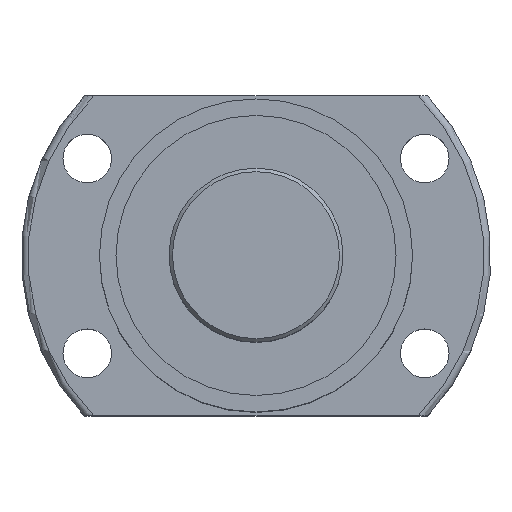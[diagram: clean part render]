
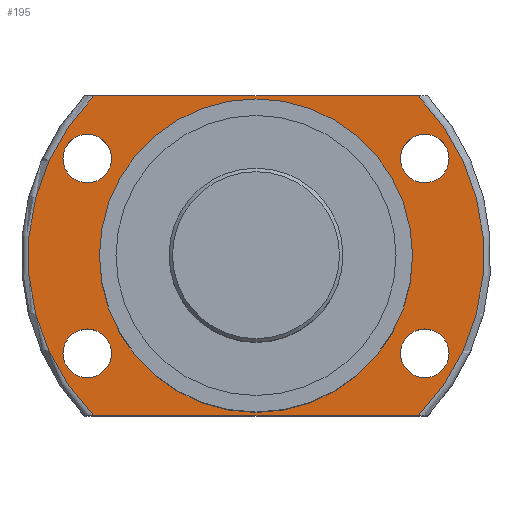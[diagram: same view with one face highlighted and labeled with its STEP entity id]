
A CAD part, top view. The second image highlights one B-rep face of the part: STEP entity #195.
In plain terms, the highlighted planar face has unit normal (0, 0, 1) as drawn and (1, 0, 0) by its records, which use the part's own axes.
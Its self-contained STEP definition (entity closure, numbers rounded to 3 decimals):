
#107=LINE('',#1185,#115);
#108=LINE('',#1190,#116);
#115=VECTOR('',#993,1.);
#116=VECTOR('',#996,1.);
#157=PLANE('',#829);
#195=ADVANCED_FACE('',(#297,#298,#299,#300,#301,#302),#157,.T.);
#297=FACE_BOUND('',#391,.T.);
#298=FACE_BOUND('',#392,.T.);
#299=FACE_BOUND('',#393,.T.);
#300=FACE_BOUND('',#394,.T.);
#301=FACE_BOUND('',#395,.T.);
#302=FACE_BOUND('',#396,.T.);
#391=EDGE_LOOP('',(#493,#494,#495,#496));
#392=EDGE_LOOP('',(#497));
#393=EDGE_LOOP('',(#498));
#394=EDGE_LOOP('',(#499));
#395=EDGE_LOOP('',(#500));
#396=EDGE_LOOP('',(#501));
#493=ORIENTED_EDGE('',*,*,#667,.T.);
#494=ORIENTED_EDGE('',*,*,#668,.T.);
#495=ORIENTED_EDGE('',*,*,#669,.F.);
#496=ORIENTED_EDGE('',*,*,#670,.T.);
#497=ORIENTED_EDGE('',*,*,#671,.T.);
#498=ORIENTED_EDGE('',*,*,#672,.T.);
#499=ORIENTED_EDGE('',*,*,#673,.T.);
#500=ORIENTED_EDGE('',*,*,#674,.T.);
#501=ORIENTED_EDGE('',*,*,#651,.F.);
#589=VERTEX_POINT('',#1138);
#605=VERTEX_POINT('',#1186);
#606=VERTEX_POINT('',#1187);
#607=VERTEX_POINT('',#1189);
#608=VERTEX_POINT('',#1191);
#609=VERTEX_POINT('',#1194);
#610=VERTEX_POINT('',#1196);
#611=VERTEX_POINT('',#1198);
#612=VERTEX_POINT('',#1200);
#651=EDGE_CURVE('',#589,#589,#721,.T.);
#667=EDGE_CURVE('',#605,#606,#107,.T.);
#668=EDGE_CURVE('',#606,#607,#737,.T.);
#669=EDGE_CURVE('',#608,#607,#108,.T.);
#670=EDGE_CURVE('',#608,#605,#738,.T.);
#671=EDGE_CURVE('',#609,#609,#739,.T.);
#672=EDGE_CURVE('',#610,#610,#740,.T.);
#673=EDGE_CURVE('',#611,#611,#741,.T.);
#674=EDGE_CURVE('',#612,#612,#742,.T.);
#721=CIRCLE('',#791,45.);
#737=CIRCLE('',#823,65.5);
#738=CIRCLE('',#824,65.5);
#739=CIRCLE('',#825,7.);
#740=CIRCLE('',#826,7.);
#741=CIRCLE('',#827,7.);
#742=CIRCLE('',#828,7.);
#791=AXIS2_PLACEMENT_3D('',#1137,#929,#930);
#823=AXIS2_PLACEMENT_3D('',#1188,#994,#995);
#824=AXIS2_PLACEMENT_3D('',#1192,#997,#998);
#825=AXIS2_PLACEMENT_3D('',#1193,#999,#1000);
#826=AXIS2_PLACEMENT_3D('',#1195,#1001,#1002);
#827=AXIS2_PLACEMENT_3D('',#1197,#1003,#1004);
#828=AXIS2_PLACEMENT_3D('',#1199,#1005,#1006);
#829=AXIS2_PLACEMENT_3D('',#1201,#1007,#1008);
#929=DIRECTION('',(1.,0.,0.));
#930=DIRECTION('',(0.,1.,0.));
#993=DIRECTION('',(0.,0.,1.));
#994=DIRECTION('',(1.,0.,0.));
#995=DIRECTION('',(0.,1.,0.));
#996=DIRECTION('',(0.,0.,1.));
#997=DIRECTION('',(1.,0.,0.));
#998=DIRECTION('',(0.,1.,0.));
#999=DIRECTION('',(-1.,0.,0.));
#1000=DIRECTION('',(0.,-1.,0.));
#1001=DIRECTION('',(-1.,0.,0.));
#1002=DIRECTION('',(0.,-1.,0.));
#1003=DIRECTION('',(-1.,0.,0.));
#1004=DIRECTION('',(0.,-1.,0.));
#1005=DIRECTION('',(-1.,0.,0.));
#1006=DIRECTION('',(0.,-1.,0.));
#1007=DIRECTION('',(1.,0.,0.));
#1008=DIRECTION('',(0.,1.,0.));
#1137=CARTESIAN_POINT('',(260.712,110.794,0.));
#1138=CARTESIAN_POINT('',(260.712,155.794,0.));
#1185=CARTESIAN_POINT('',(260.712,156.794,-87.128));
#1186=CARTESIAN_POINT('',(260.712,156.794,-46.629));
#1187=CARTESIAN_POINT('',(260.712,156.794,46.629));
#1188=CARTESIAN_POINT('',(260.712,110.794,0.));
#1189=CARTESIAN_POINT('',(260.712,64.794,46.629));
#1190=CARTESIAN_POINT('',(260.712,64.794,-87.128));
#1191=CARTESIAN_POINT('',(260.712,64.794,-46.629));
#1192=CARTESIAN_POINT('',(260.712,110.794,0.));
#1193=CARTESIAN_POINT('',(260.712,138.794,48.5));
#1194=CARTESIAN_POINT('',(260.712,131.794,48.5));
#1195=CARTESIAN_POINT('',(260.712,82.794,48.5));
#1196=CARTESIAN_POINT('',(260.712,75.794,48.5));
#1197=CARTESIAN_POINT('',(260.712,82.794,-48.5));
#1198=CARTESIAN_POINT('',(260.712,75.794,-48.5));
#1199=CARTESIAN_POINT('',(260.712,138.794,-48.5));
#1200=CARTESIAN_POINT('',(260.712,131.794,-48.5));
#1201=CARTESIAN_POINT('',(260.712,156.794,0.));
